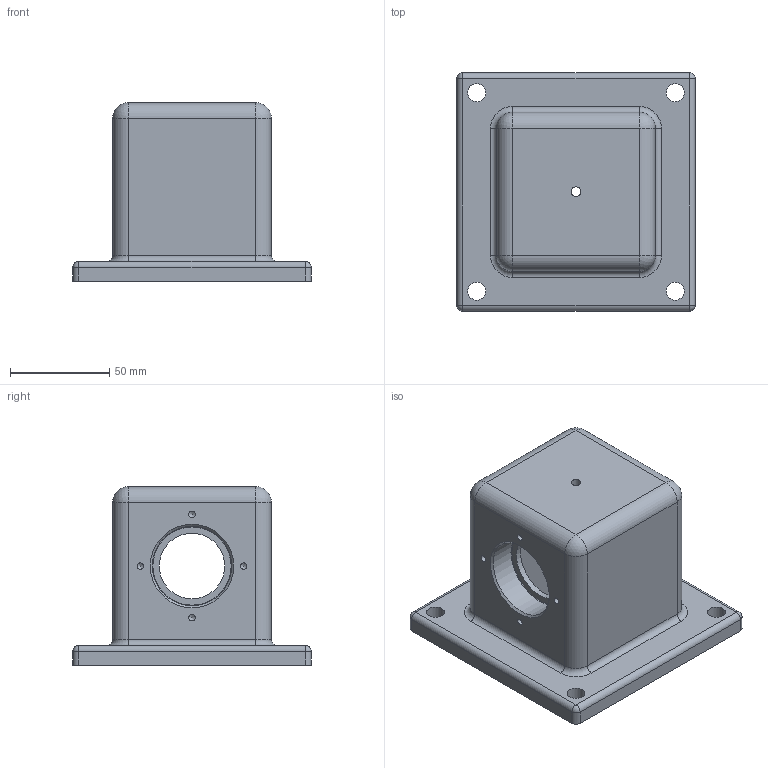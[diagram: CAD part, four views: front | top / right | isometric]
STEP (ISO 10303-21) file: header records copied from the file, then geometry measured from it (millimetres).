
FILE_DESCRIPTION(/* description */ (''),/* implementation_level */ '2;1');
FILE_NAME(/* name */ 'C:\Users\now\Desktop\새 폴더\381109E1008-본체.stp',/* time_stamp */ '2018-11-10T11:55:34+09:00',/* author */ ('now'),/* organization */ (''),/* preprocessor_version */ 'ST-DEVELOPER v15.6',/* originating_system */ 'Autodesk Inventor 2015',/* authorisation */ '');
FILE_SCHEMA (('AUTOMOTIVE_DESIGN { 1 0 10303 214 3 1 1 }'));
Length unit declared in the file: millimetre
Products named in the file (1): 381109E1008-본체
Bounding box: 120 x 120 x 90 mm (x, y, z)
Volume: 383386.5 mm3; surface area: 74495.7 mm2
Topology: 1 solids, 1 shells, 91 faces, 204 edges, 119 vertices
Faces by surface type: cylinder 45, plane 18, sphere 12, cone 10, torus 6
Full cylindrical faces by diameter (mm): 3.242 x8, 4.917 x1, 9 x4, 33 x2, 40 x2
Entity records: 2298 total; most frequent: DIRECTION 444, CARTESIAN_POINT 360, ORIENTED_EDGE 324, AXIS2_PLACEMENT_3D 190, EDGE_CURVE 162, EDGE_LOOP 138, VERTEX_POINT 106, CIRCLE 98
